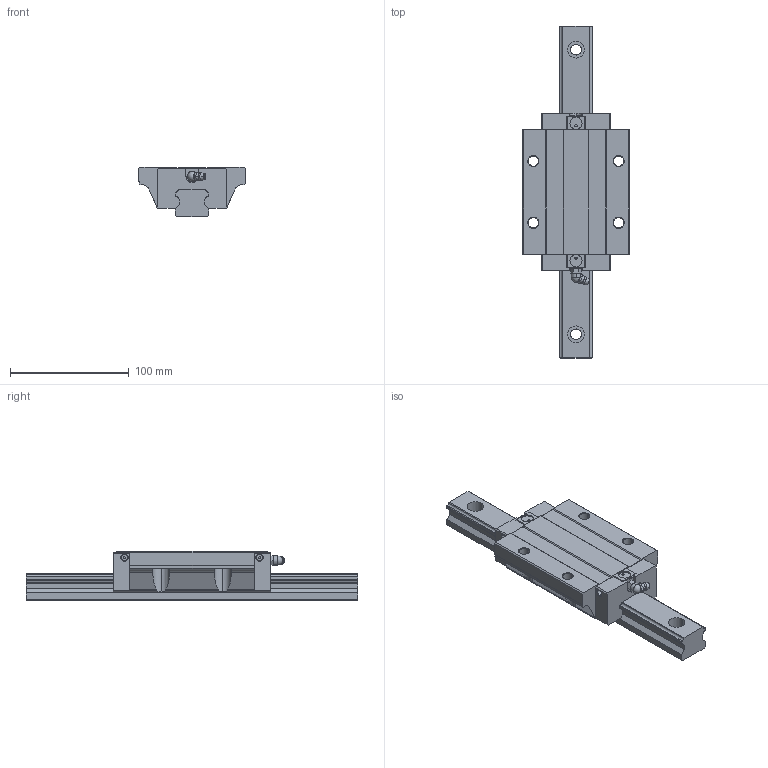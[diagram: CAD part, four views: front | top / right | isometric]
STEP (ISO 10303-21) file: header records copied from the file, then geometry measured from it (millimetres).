
FILE_DESCRIPTION((''),'1');
FILE_NAME(' ',' ',(''),(''),'ACIS Interop R16','Kubotek KeyCreator V6.5.2 (0407)',' ');
FILE_SCHEMA(('CONFIG_CONTROL_DESIGN'));
Length unit declared in the file: millimetre
Products named in the file (3): 1; 2; 3
Bounding box: 90 x 280 x 42 mm (x, y, z)
Volume: 426570.8 mm3; surface area: 75026.7 mm2
Topology: 3 solids, 3 shells, 266 faces, 725 edges, 481 vertices
Faces by surface type: plane 145, cylinder 88, cone 18, torus 10, sphere 3, bspline 2
Entity records: 8788 total; most frequent: CARTESIAN_POINT 1755, DIRECTION 1454, ORIENTED_EDGE 1446, EDGE_CURVE 723, AXIS2_PLACEMENT_3D 512, VERTEX_POINT 481, LINE 430, VECTOR 430
